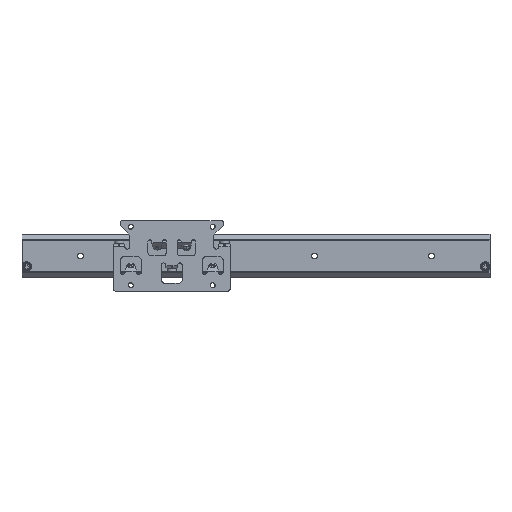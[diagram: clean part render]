
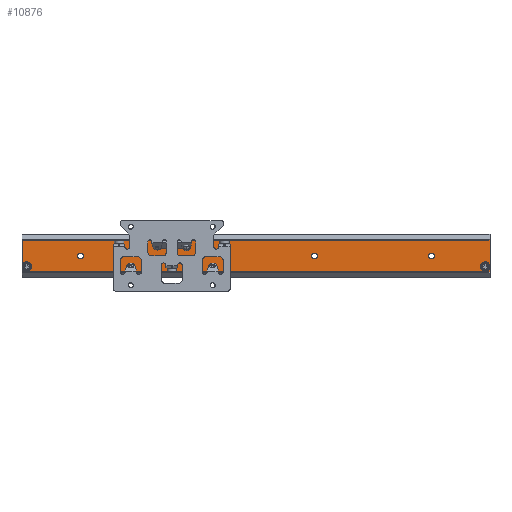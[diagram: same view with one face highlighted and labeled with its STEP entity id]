
A CAD part, top view. The second image highlights one B-rep face of the part: STEP entity #10876.
In plain terms, the highlighted planar face has unit normal (0, 0, 1).
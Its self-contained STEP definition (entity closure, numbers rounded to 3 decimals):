
#10671=CARTESIAN_POINT('',(406.032,207.71,-28.214));
#10672=VERTEX_POINT('',#10671);
#10673=CARTESIAN_POINT('',(406.032,241.71,-28.214));
#10674=VERTEX_POINT('',#10673);
#10675=CARTESIAN_POINT('',(406.032,241.71,-28.214));
#10676=DIRECTION('',(0.,1.,0.));
#10677=VECTOR('',#10676,1.);
#10678=LINE('',#10675,#10677);
#10679=EDGE_CURVE('',#10672,#10674,#10678,.T.);
#10680=ORIENTED_EDGE('',*,*,#10679,.T.);
#10681=CARTESIAN_POINT('',(6.032,241.71,-28.214));
#10682=VERTEX_POINT('',#10681);
#10683=CARTESIAN_POINT('',(6.032,241.71,-28.214));
#10684=DIRECTION('',(1.,0.,0.));
#10685=VECTOR('',#10684,1.);
#10686=LINE('',#10683,#10685);
#10687=EDGE_CURVE('',#10682,#10674,#10686,.T.);
#10688=ORIENTED_EDGE('',*,*,#10687,.F.);
#10689=CARTESIAN_POINT('',(6.032,207.71,-28.214));
#10690=VERTEX_POINT('',#10689);
#10691=CARTESIAN_POINT('',(6.032,241.71,-28.214));
#10692=DIRECTION('',(0.,-1.,0.));
#10693=VECTOR('',#10692,1.);
#10694=LINE('',#10691,#10693);
#10695=EDGE_CURVE('',#10682,#10690,#10694,.T.);
#10696=ORIENTED_EDGE('',*,*,#10695,.T.);
#10697=CARTESIAN_POINT('',(6.032,207.71,-28.214));
#10698=DIRECTION('',(1.,0.,0.));
#10699=VECTOR('',#10698,1.);
#10700=LINE('',#10697,#10699);
#10701=EDGE_CURVE('',#10690,#10672,#10700,.T.);
#10702=ORIENTED_EDGE('',*,*,#10701,.T.);
#10703=EDGE_LOOP('',(#10680,#10688,#10696,#10702));
#10704=FACE_OUTER_BOUND('',#10703,.T.);
#10705=CARTESIAN_POINT('',(400.579,215.71,-28.214));
#10706=VERTEX_POINT('',#10705);
#10707=CARTESIAN_POINT('',(401.932,215.71,-28.214));
#10708=DIRECTION('',(0.,0.,-1.));
#10709=DIRECTION('',(1.,0.,0.));
#10710=AXIS2_PLACEMENT_3D('',#10707,#10708,#10709);
#10711=CIRCLE('',#10710,1.353);
#10712=EDGE_CURVE('',#10706,#10706,#10711,.T.);
#10713=ORIENTED_EDGE('',*,*,#10712,.T.);
#10714=EDGE_LOOP('',(#10713));
#10715=FACE_BOUND('',#10714,.T.);
#10716=CARTESIAN_POINT('',(11.485,215.71,-28.214));
#10717=VERTEX_POINT('',#10716);
#10718=CARTESIAN_POINT('',(10.132,215.71,-28.214));
#10719=DIRECTION('',(0.,0.,-1.));
#10720=DIRECTION('',(-1.,0.,0.));
#10721=AXIS2_PLACEMENT_3D('',#10718,#10719,#10720);
#10722=CIRCLE('',#10721,1.353);
#10723=EDGE_CURVE('',#10717,#10717,#10722,.T.);
#10724=ORIENTED_EDGE('',*,*,#10723,.T.);
#10725=EDGE_LOOP('',(#10724));
#10726=FACE_BOUND('',#10725,.T.);
#10727=CARTESIAN_POINT('',(356.382,227.01,-28.214));
#10728=VERTEX_POINT('',#10727);
#10729=CARTESIAN_POINT('',(356.382,222.41,-28.214));
#10730=VERTEX_POINT('',#10729);
#10731=CARTESIAN_POINT('',(356.382,224.71,-28.214));
#10732=DIRECTION('',(0.,0.,-1.));
#10733=DIRECTION('',(1.,0.,0.));
#10734=AXIS2_PLACEMENT_3D('',#10731,#10732,#10733);
#10735=CIRCLE('',#10734,2.3);
#10736=EDGE_CURVE('',#10728,#10730,#10735,.T.);
#10737=ORIENTED_EDGE('',*,*,#10736,.T.);
#10738=CARTESIAN_POINT('',(355.682,222.41,-28.214));
#10739=VERTEX_POINT('',#10738);
#10740=CARTESIAN_POINT('',(181.032,222.41,-28.214));
#10741=DIRECTION('',(-1.,0.,0.));
#10742=VECTOR('',#10741,1.);
#10743=LINE('',#10740,#10742);
#10744=EDGE_CURVE('',#10730,#10739,#10743,.T.);
#10745=ORIENTED_EDGE('',*,*,#10744,.T.);
#10746=CARTESIAN_POINT('',(355.682,227.01,-28.214));
#10747=VERTEX_POINT('',#10746);
#10748=CARTESIAN_POINT('',(355.682,224.71,-28.214));
#10749=DIRECTION('',(0.,0.,-1.));
#10750=DIRECTION('',(1.,0.,0.));
#10751=AXIS2_PLACEMENT_3D('',#10748,#10749,#10750);
#10752=CIRCLE('',#10751,2.3);
#10753=EDGE_CURVE('',#10739,#10747,#10752,.T.);
#10754=ORIENTED_EDGE('',*,*,#10753,.T.);
#10755=CARTESIAN_POINT('',(181.032,227.01,-28.214));
#10756=DIRECTION('',(1.,0.,0.));
#10757=VECTOR('',#10756,1.);
#10758=LINE('',#10755,#10757);
#10759=EDGE_CURVE('',#10747,#10728,#10758,.T.);
#10760=ORIENTED_EDGE('',*,*,#10759,.T.);
#10761=EDGE_LOOP('',(#10737,#10745,#10754,#10760));
#10762=FACE_BOUND('',#10761,.T.);
#10763=CARTESIAN_POINT('',(256.382,227.01,-28.214));
#10764=VERTEX_POINT('',#10763);
#10765=CARTESIAN_POINT('',(256.382,222.41,-28.214));
#10766=VERTEX_POINT('',#10765);
#10767=CARTESIAN_POINT('',(256.382,224.71,-28.214));
#10768=DIRECTION('',(0.,0.,-1.));
#10769=DIRECTION('',(1.,0.,0.));
#10770=AXIS2_PLACEMENT_3D('',#10767,#10768,#10769);
#10771=CIRCLE('',#10770,2.3);
#10772=EDGE_CURVE('',#10764,#10766,#10771,.T.);
#10773=ORIENTED_EDGE('',*,*,#10772,.T.);
#10774=CARTESIAN_POINT('',(255.682,222.41,-28.214));
#10775=VERTEX_POINT('',#10774);
#10776=CARTESIAN_POINT('',(131.032,222.41,-28.214));
#10777=DIRECTION('',(-1.,0.,0.));
#10778=VECTOR('',#10777,1.);
#10779=LINE('',#10776,#10778);
#10780=EDGE_CURVE('',#10766,#10775,#10779,.T.);
#10781=ORIENTED_EDGE('',*,*,#10780,.T.);
#10782=CARTESIAN_POINT('',(255.682,227.01,-28.214));
#10783=VERTEX_POINT('',#10782);
#10784=CARTESIAN_POINT('',(255.682,224.71,-28.214));
#10785=DIRECTION('',(0.,0.,-1.));
#10786=DIRECTION('',(1.,0.,0.));
#10787=AXIS2_PLACEMENT_3D('',#10784,#10785,#10786);
#10788=CIRCLE('',#10787,2.3);
#10789=EDGE_CURVE('',#10775,#10783,#10788,.T.);
#10790=ORIENTED_EDGE('',*,*,#10789,.T.);
#10791=CARTESIAN_POINT('',(131.032,227.01,-28.214));
#10792=DIRECTION('',(1.,0.,0.));
#10793=VECTOR('',#10792,1.);
#10794=LINE('',#10791,#10793);
#10795=EDGE_CURVE('',#10783,#10764,#10794,.T.);
#10796=ORIENTED_EDGE('',*,*,#10795,.T.);
#10797=EDGE_LOOP('',(#10773,#10781,#10790,#10796));
#10798=FACE_BOUND('',#10797,.T.);
#10799=CARTESIAN_POINT('',(156.382,222.41,-28.214));
#10800=VERTEX_POINT('',#10799);
#10801=CARTESIAN_POINT('',(155.682,222.41,-28.214));
#10802=VERTEX_POINT('',#10801);
#10803=CARTESIAN_POINT('',(81.032,222.41,-28.214));
#10804=DIRECTION('',(-1.,0.,0.));
#10805=VECTOR('',#10804,1.);
#10806=LINE('',#10803,#10805);
#10807=EDGE_CURVE('',#10800,#10802,#10806,.T.);
#10808=ORIENTED_EDGE('',*,*,#10807,.T.);
#10809=CARTESIAN_POINT('',(155.682,227.01,-28.214));
#10810=VERTEX_POINT('',#10809);
#10811=CARTESIAN_POINT('',(155.682,224.71,-28.214));
#10812=DIRECTION('',(0.,0.,-1.));
#10813=DIRECTION('',(1.,0.,0.));
#10814=AXIS2_PLACEMENT_3D('',#10811,#10812,#10813);
#10815=CIRCLE('',#10814,2.3);
#10816=EDGE_CURVE('',#10802,#10810,#10815,.T.);
#10817=ORIENTED_EDGE('',*,*,#10816,.T.);
#10818=CARTESIAN_POINT('',(156.382,227.01,-28.214));
#10819=VERTEX_POINT('',#10818);
#10820=CARTESIAN_POINT('',(81.032,227.01,-28.214));
#10821=DIRECTION('',(1.,0.,0.));
#10822=VECTOR('',#10821,1.);
#10823=LINE('',#10820,#10822);
#10824=EDGE_CURVE('',#10810,#10819,#10823,.T.);
#10825=ORIENTED_EDGE('',*,*,#10824,.T.);
#10826=CARTESIAN_POINT('',(156.382,224.71,-28.214));
#10827=DIRECTION('',(0.,0.,-1.));
#10828=DIRECTION('',(1.,0.,0.));
#10829=AXIS2_PLACEMENT_3D('',#10826,#10827,#10828);
#10830=CIRCLE('',#10829,2.3);
#10831=EDGE_CURVE('',#10819,#10800,#10830,.T.);
#10832=ORIENTED_EDGE('',*,*,#10831,.T.);
#10833=EDGE_LOOP('',(#10808,#10817,#10825,#10832));
#10834=FACE_BOUND('',#10833,.T.);
#10835=CARTESIAN_POINT('',(56.382,227.01,-28.214));
#10836=VERTEX_POINT('',#10835);
#10837=CARTESIAN_POINT('',(56.382,222.41,-28.214));
#10838=VERTEX_POINT('',#10837);
#10839=CARTESIAN_POINT('',(56.382,224.71,-28.214));
#10840=DIRECTION('',(0.,0.,-1.));
#10841=DIRECTION('',(1.,0.,0.));
#10842=AXIS2_PLACEMENT_3D('',#10839,#10840,#10841);
#10843=CIRCLE('',#10842,2.3);
#10844=EDGE_CURVE('',#10836,#10838,#10843,.T.);
#10845=ORIENTED_EDGE('',*,*,#10844,.T.);
#10846=CARTESIAN_POINT('',(55.682,222.41,-28.214));
#10847=VERTEX_POINT('',#10846);
#10848=CARTESIAN_POINT('',(31.032,222.41,-28.214));
#10849=DIRECTION('',(-1.,0.,0.));
#10850=VECTOR('',#10849,1.);
#10851=LINE('',#10848,#10850);
#10852=EDGE_CURVE('',#10838,#10847,#10851,.T.);
#10853=ORIENTED_EDGE('',*,*,#10852,.T.);
#10854=CARTESIAN_POINT('',(55.682,227.01,-28.214));
#10855=VERTEX_POINT('',#10854);
#10856=CARTESIAN_POINT('',(55.682,224.71,-28.214));
#10857=DIRECTION('',(0.,0.,-1.));
#10858=DIRECTION('',(1.,0.,0.));
#10859=AXIS2_PLACEMENT_3D('',#10856,#10857,#10858);
#10860=CIRCLE('',#10859,2.3);
#10861=EDGE_CURVE('',#10847,#10855,#10860,.T.);
#10862=ORIENTED_EDGE('',*,*,#10861,.T.);
#10863=CARTESIAN_POINT('',(31.032,227.01,-28.214));
#10864=DIRECTION('',(1.,0.,0.));
#10865=VECTOR('',#10864,1.);
#10866=LINE('',#10863,#10865);
#10867=EDGE_CURVE('',#10855,#10836,#10866,.T.);
#10868=ORIENTED_EDGE('',*,*,#10867,.T.);
#10869=EDGE_LOOP('',(#10845,#10853,#10862,#10868));
#10870=FACE_BOUND('',#10869,.T.);
#10871=CARTESIAN_POINT('',(6.032,224.71,-28.214));
#10872=DIRECTION('',(0.,0.,1.));
#10873=DIRECTION('',(0.,-1.,0.));
#10874=AXIS2_PLACEMENT_3D('',#10871,#10872,#10873);
#10875=PLANE('',#10874);
#10876=ADVANCED_FACE('',(#10704,#10715,#10726,#10762,#10798,#10834,#10870),#10875,.T.);
